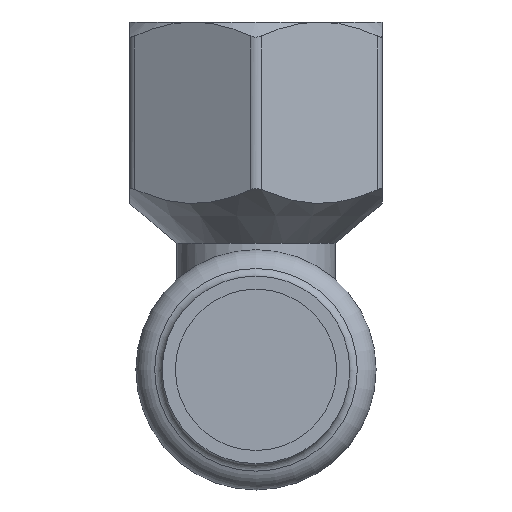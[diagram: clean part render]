
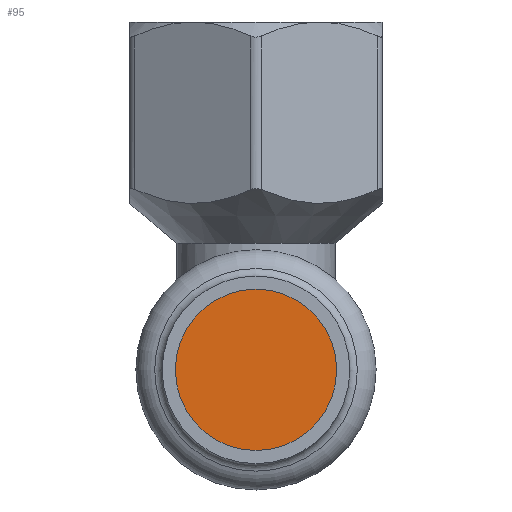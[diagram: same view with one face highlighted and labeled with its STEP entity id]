
A CAD part, front view. The second image highlights one B-rep face of the part: STEP entity #95.
In plain terms, the highlighted planar face has unit normal (0, -1, 0).
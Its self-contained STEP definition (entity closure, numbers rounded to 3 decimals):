
#95=ADVANCED_FACE('',(#436),#438,.T.);
#436=FACE_BOUND('',#437,.T.);
#437=EDGE_LOOP('',(#592));
#438=PLANE('',#439);
#439=AXIS2_PLACEMENT_3D('',#440,#441,#442);
#440=CARTESIAN_POINT('',(0.,-34.354,0.));
#441=DIRECTION('',(0.,-1.,0.));
#442=DIRECTION('',(0.,0.,-1.));
#592=ORIENTED_EDGE('',*,*,#667,.T.);
#667=EDGE_CURVE('',#798,#798,#799,.F.);
#798=VERTEX_POINT('',#2003);
#799=CIRCLE('',#2004,7.65);
#2003=CARTESIAN_POINT('',(0.,-34.354,7.65));
#2004=AXIS2_PLACEMENT_3D('',#2005,#2006,#2007);
#2005=CARTESIAN_POINT('',(0.,-34.354,0.));
#2006=DIRECTION('',(0.,1.,0.));
#2007=DIRECTION('',(0.,0.,1.));
